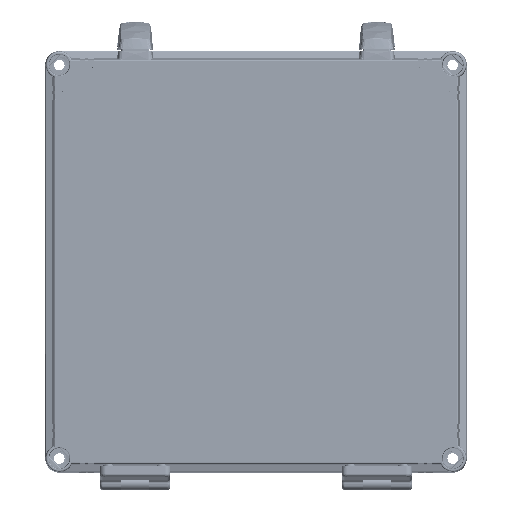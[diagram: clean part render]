
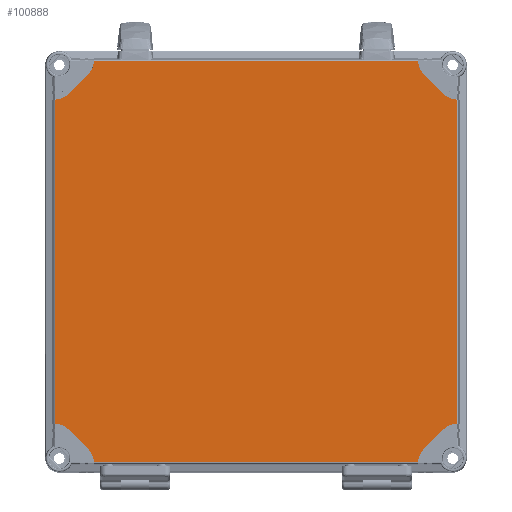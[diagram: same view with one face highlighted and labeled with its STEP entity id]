
A CAD part, top view. The second image highlights one B-rep face of the part: STEP entity #100888.
In plain terms, the highlighted planar face has unit normal (0, 0, 1).
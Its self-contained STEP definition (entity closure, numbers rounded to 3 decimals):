
#86667=CARTESIAN_POINT('',(-129.346,-143.3,30.));
#86668=DIRECTION('',(0.,0.,1.));
#86669=DIRECTION('',(0.999,0.032,0.));
#86670=AXIS2_PLACEMENT_3D('',#86667,#86668,#86669);
#86675=DIRECTION('',(-0.707,0.707,0.));
#86676=VECTOR('',#86675,19.734);
#86677=CARTESIAN_POINT('',(-119.447,-133.401,30.));
#86678=LINE('',#86677,#86676);
#86682=CARTESIAN_POINT('',(-143.3,-129.346,30.));
#86683=DIRECTION('',(0.,0.,1.));
#86684=DIRECTION('',(0.707,0.707,0.));
#86685=AXIS2_PLACEMENT_3D('',#86682,#86683,#86684);
#86690=CARTESIAN_POINT('',(-143.3,129.346,30.));
#86691=DIRECTION('',(0.,0.,1.));
#86692=DIRECTION('',(0.032,-0.999,0.));
#86693=AXIS2_PLACEMENT_3D('',#86690,#86691,#86692);
#86698=DIRECTION('',(0.707,0.707,0.));
#86699=VECTOR('',#86698,19.734);
#86700=CARTESIAN_POINT('',(-133.401,119.447,30.));
#86701=LINE('',#86700,#86699);
#86705=CARTESIAN_POINT('',(-129.346,143.3,30.));
#86706=DIRECTION('',(0.,0.,1.));
#86707=DIRECTION('',(0.707,-0.707,0.));
#86708=AXIS2_PLACEMENT_3D('',#86705,#86706,#86707);
#86713=DIRECTION('',(1.,0.,0.));
#86714=VECTOR('',#86713,230.707);
#86715=CARTESIAN_POINT('',(-115.353,142.851,30.));
#86716=LINE('',#86715,#86714);
#86720=CARTESIAN_POINT('',(129.346,143.3,30.));
#86721=DIRECTION('',(0.,0.,1.));
#86722=DIRECTION('',(-0.999,-0.032,0.));
#86723=AXIS2_PLACEMENT_3D('',#86720,#86721,#86722);
#86728=DIRECTION('',(0.707,-0.707,0.));
#86729=VECTOR('',#86728,19.734);
#86730=CARTESIAN_POINT('',(119.447,133.401,30.));
#86731=LINE('',#86730,#86729);
#86735=CARTESIAN_POINT('',(143.3,129.346,30.));
#86736=DIRECTION('',(0.,0.,1.));
#86737=DIRECTION('',(-0.707,-0.707,0.));
#86738=AXIS2_PLACEMENT_3D('',#86735,#86736,#86737);
#86743=CARTESIAN_POINT('',(143.3,-129.346,30.));
#86744=DIRECTION('',(0.,0.,1.));
#86745=DIRECTION('',(-0.032,0.999,0.));
#86746=AXIS2_PLACEMENT_3D('',#86743,#86744,#86745);
#86751=DIRECTION('',(-0.707,-0.707,0.));
#86752=VECTOR('',#86751,19.734);
#86753=CARTESIAN_POINT('',(133.401,-119.447,30.));
#86754=LINE('',#86753,#86752);
#86758=CARTESIAN_POINT('',(129.346,-143.3,30.));
#86759=DIRECTION('',(0.,0.,1.));
#86760=DIRECTION('',(-0.707,0.707,0.));
#86761=AXIS2_PLACEMENT_3D('',#86758,#86759,#86760);
#90125=DIRECTION('',(1.,0.,0.));
#90126=VECTOR('',#90125,230.707);
#90127=CARTESIAN_POINT('',(-115.353,-142.851,30.));
#90128=LINE('',#90127,#90126);
#90132=CARTESIAN_POINT('',(115.353,-142.851,30.));
#90163=CARTESIAN_POINT('',(-115.353,-142.851,30.));
#90189=DIRECTION('',(0.,1.,0.));
#90190=VECTOR('',#90189,230.707);
#90191=CARTESIAN_POINT('',(142.851,-115.353,30.));
#90192=LINE('',#90191,#90190);
#90260=CARTESIAN_POINT('',(-115.353,142.851,30.));
#90298=CARTESIAN_POINT('',(115.353,142.851,30.));
#90324=DIRECTION('',(0.,-1.,0.));
#90325=VECTOR('',#90324,230.707);
#90326=CARTESIAN_POINT('',(-142.851,115.353,30.));
#90327=LINE('',#90326,#90325);
#97266=CARTESIAN_POINT('',(119.447,133.401,30.));
#97267=CARTESIAN_POINT('',(133.401,119.447,30.));
#97268=VERTEX_POINT('',#97266);
#97269=VERTEX_POINT('',#97267);
#97286=CARTESIAN_POINT('',(-133.401,119.447,30.));
#97287=CARTESIAN_POINT('',(-119.447,133.401,30.));
#97288=VERTEX_POINT('',#97286);
#97289=VERTEX_POINT('',#97287);
#97302=CARTESIAN_POINT('',(133.401,-119.447,30.));
#97303=CARTESIAN_POINT('',(119.447,-133.401,30.));
#97304=VERTEX_POINT('',#97302);
#97305=VERTEX_POINT('',#97303);
#97314=CARTESIAN_POINT('',(-119.447,-133.401,30.));
#97315=CARTESIAN_POINT('',(-133.401,-119.447,30.));
#97316=VERTEX_POINT('',#97314);
#97317=VERTEX_POINT('',#97315);
#97624=VERTEX_POINT('',#90298);
#97636=CARTESIAN_POINT('',(142.851,-115.353,30.));
#97637=CARTESIAN_POINT('',(142.851,115.353,30.));
#97638=VERTEX_POINT('',#97636);
#97639=VERTEX_POINT('',#97637);
#97647=VERTEX_POINT('',#90260);
#97692=CARTESIAN_POINT('',(-142.851,115.353,30.));
#97693=CARTESIAN_POINT('',(-142.851,-115.353,30.));
#97694=VERTEX_POINT('',#97692);
#97695=VERTEX_POINT('',#97693);
#97748=VERTEX_POINT('',#90163);
#97749=VERTEX_POINT('',#90132);
#100849=CARTESIAN_POINT('',(0.,0.,30.));
#100850=DIRECTION('',(0.,0.,1.));
#100851=DIRECTION('',(1.,0.,0.));
#100852=AXIS2_PLACEMENT_3D('',#100849,#100850,#100851);
#100853=PLANE('',#100852);
#100855=ORIENTED_EDGE('',*,*,#100854,.F.);
#100857=ORIENTED_EDGE('',*,*,#100856,.T.);
#100859=ORIENTED_EDGE('',*,*,#100858,.T.);
#100861=ORIENTED_EDGE('',*,*,#100860,.T.);
#100863=ORIENTED_EDGE('',*,*,#100862,.F.);
#100865=ORIENTED_EDGE('',*,*,#100864,.T.);
#100867=ORIENTED_EDGE('',*,*,#100866,.T.);
#100869=ORIENTED_EDGE('',*,*,#100868,.T.);
#100871=ORIENTED_EDGE('',*,*,#100870,.T.);
#100873=ORIENTED_EDGE('',*,*,#100872,.T.);
#100875=ORIENTED_EDGE('',*,*,#100874,.T.);
#100877=ORIENTED_EDGE('',*,*,#100876,.T.);
#100879=ORIENTED_EDGE('',*,*,#100878,.F.);
#100881=ORIENTED_EDGE('',*,*,#100880,.T.);
#100883=ORIENTED_EDGE('',*,*,#100882,.T.);
#100885=ORIENTED_EDGE('',*,*,#100884,.T.);
#100886=EDGE_LOOP('',(#100855,#100857,#100859,#100861,#100863,#100865,#100867,
#100869,#100871,#100873,#100875,#100877,#100879,#100881,#100883,#100885));
#100887=FACE_OUTER_BOUND('',#100886,.F.);
#100888=ADVANCED_FACE('',(#100887),#100853,.T.);
#86671=CIRCLE('',#86670,14.);
#86686=CIRCLE('',#86685,14.);
#86694=CIRCLE('',#86693,14.);
#86709=CIRCLE('',#86708,14.);
#86724=CIRCLE('',#86723,14.);
#86739=CIRCLE('',#86738,14.);
#86747=CIRCLE('',#86746,14.);
#86762=CIRCLE('',#86761,14.);
#100854=EDGE_CURVE('',#97748,#97749,#90128,.T.);
#100856=EDGE_CURVE('',#97748,#97316,#86671,.T.);
#100858=EDGE_CURVE('',#97316,#97317,#86678,.T.);
#100860=EDGE_CURVE('',#97317,#97695,#86686,.T.);
#100862=EDGE_CURVE('',#97694,#97695,#90327,.T.);
#100864=EDGE_CURVE('',#97694,#97288,#86694,.T.);
#100866=EDGE_CURVE('',#97288,#97289,#86701,.T.);
#100868=EDGE_CURVE('',#97289,#97647,#86709,.T.);
#100870=EDGE_CURVE('',#97647,#97624,#86716,.T.);
#100872=EDGE_CURVE('',#97624,#97268,#86724,.T.);
#100874=EDGE_CURVE('',#97268,#97269,#86731,.T.);
#100876=EDGE_CURVE('',#97269,#97639,#86739,.T.);
#100878=EDGE_CURVE('',#97638,#97639,#90192,.T.);
#100880=EDGE_CURVE('',#97638,#97304,#86747,.T.);
#100882=EDGE_CURVE('',#97304,#97305,#86754,.T.);
#100884=EDGE_CURVE('',#97305,#97749,#86762,.T.);
